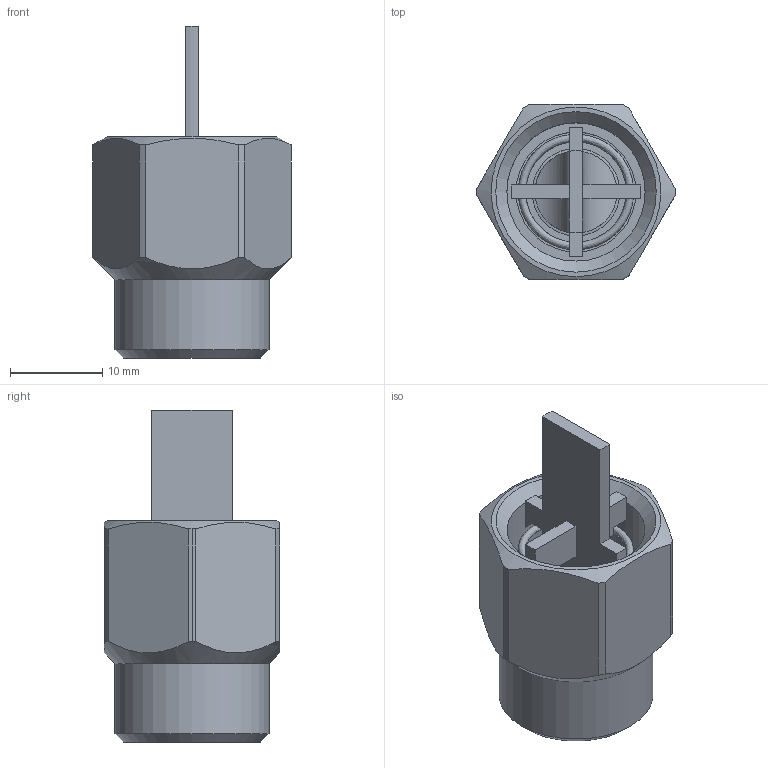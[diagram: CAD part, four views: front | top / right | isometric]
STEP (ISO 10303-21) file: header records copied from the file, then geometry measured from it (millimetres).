
FILE_DESCRIPTION(('TFLEX Exchange Step'),'2;1');
FILE_NAME('Automatic Air Vent Check Valve 3_8 VT.539.N.03 Valtec.stp', '2023-09-12T16:20:46+03:00',('denis'),('Unknown organisation'),'TFLEX Exchange 2023.0','T-FLEX CAD','Unknown authorisation');
FILE_SCHEMA( ('AUTOMOTIVE_DESIGN { 1 0 10303 214 1 1 1 1 }') );
Length unit declared in the file: millimetre
Products named in the file (1): Nodes
Bounding box: 21.5 x 19 x 36 mm (x, y, z)
Volume: 3902.1 mm3; surface area: 4419.4 mm2
Topology: 4 solids, 4 shells, 66 faces, 160 edges, 106 vertices
Faces by surface type: plane 40, cylinder 19, cone 5, bspline 1, torus 1
Full cylindrical faces by diameter (mm): 7.4 x1, 8.9 x2, 9.5 x1, 12.5 x1, 13 x1, 15 x1, 16.7 x1
Entity records: 4722 total; most frequent: CARTESIAN_POINT 3125, ORIENTED_EDGE 318, DIRECTION 316, EDGE_CURVE 159, AXIS2_PLACEMENT_3D 110, VERTEX_POINT 106, VECTOR 96, LINE 96
